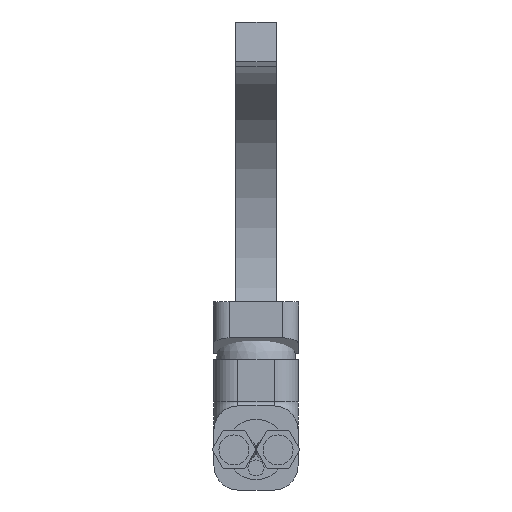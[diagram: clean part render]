
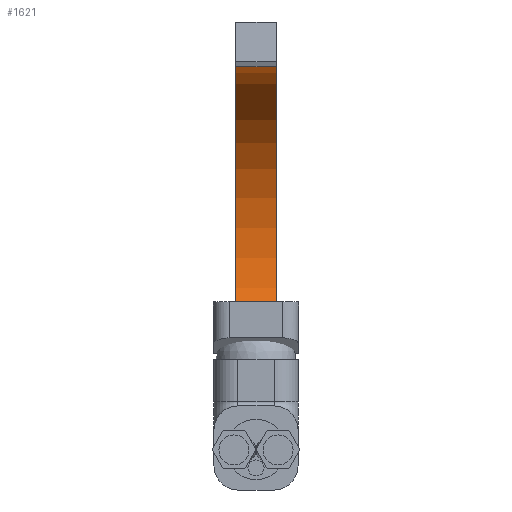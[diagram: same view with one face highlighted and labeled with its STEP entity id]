
A CAD part, front view. The second image highlights one B-rep face of the part: STEP entity #1621.
In plain terms, the highlighted cylindrical face has radius 90.648 mm (diameter 181.296 mm), a partial arc.
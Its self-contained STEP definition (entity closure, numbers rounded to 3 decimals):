
#82=LINE('',#2580,#217);
#90=LINE('',#2598,#225);
#217=VECTOR('',#2029,10.);
#225=VECTOR('',#2041,10.);
#331=CYLINDRICAL_SURFACE('',#1760,90.648);
#381=FACE_OUTER_BOUND('',#479,.T.);
#479=EDGE_LOOP('',(#1165,#1166,#1167,#1168));
#581=CIRCLE('',#1761,90.648);
#582=CIRCLE('',#1762,90.648);
#686=VERTEX_POINT('',#2578);
#687=VERTEX_POINT('',#2579);
#694=VERTEX_POINT('',#2596);
#695=VERTEX_POINT('',#2597);
#868=EDGE_CURVE('',#686,#687,#82,.T.);
#876=EDGE_CURVE('',#694,#695,#90,.T.);
#877=EDGE_CURVE('',#695,#687,#581,.T.);
#878=EDGE_CURVE('',#694,#686,#582,.T.);
#1165=ORIENTED_EDGE('',*,*,#876,.T.);
#1166=ORIENTED_EDGE('',*,*,#877,.T.);
#1167=ORIENTED_EDGE('',*,*,#868,.F.);
#1168=ORIENTED_EDGE('',*,*,#878,.F.);
#1621=ADVANCED_FACE('',(#381),#331,.F.);
#1760=AXIS2_PLACEMENT_3D('',#2595,#2039,#2040);
#1761=AXIS2_PLACEMENT_3D('',#2599,#2042,#2043);
#1762=AXIS2_PLACEMENT_3D('',#2600,#2044,#2045);
#2029=DIRECTION('',(1.,0.,0.));
#2039=DIRECTION('center_axis',(1.,0.,0.));
#2040=DIRECTION('ref_axis',(0.,-0.124,-0.992));
#2041=DIRECTION('',(1.,0.,0.));
#2042=DIRECTION('center_axis',(1.,0.,0.));
#2043=DIRECTION('ref_axis',(0.,0.,-1.));
#2044=DIRECTION('center_axis',(1.,0.,0.));
#2045=DIRECTION('ref_axis',(0.,0.,-1.));
#2578=CARTESIAN_POINT('',(-53.648,-176.1,99.947));
#2579=CARTESIAN_POINT('',(-33.648,-176.1,99.947));
#2580=CARTESIAN_POINT('',(-53.648,-176.1,99.947));
#2595=CARTESIAN_POINT('Origin',(-43.648,-187.352,10.));
#2596=CARTESIAN_POINT('',(-53.648,-187.352,-80.648));
#2597=CARTESIAN_POINT('',(-33.648,-187.352,-80.648));
#2598=CARTESIAN_POINT('',(-53.648,-187.352,-80.648));
#2599=CARTESIAN_POINT('Origin',(-33.648,-187.352,10.));
#2600=CARTESIAN_POINT('Origin',(-53.648,-187.352,10.));
